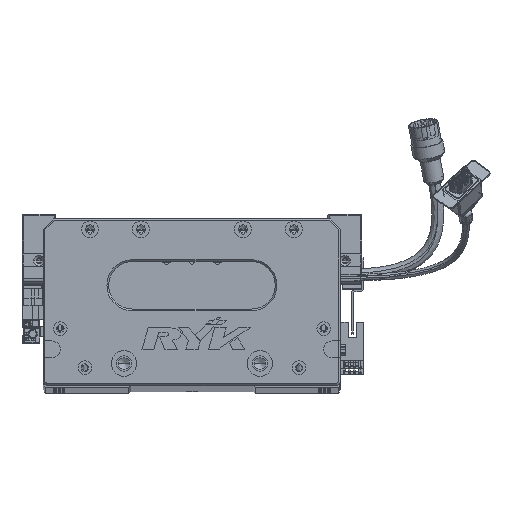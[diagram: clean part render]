
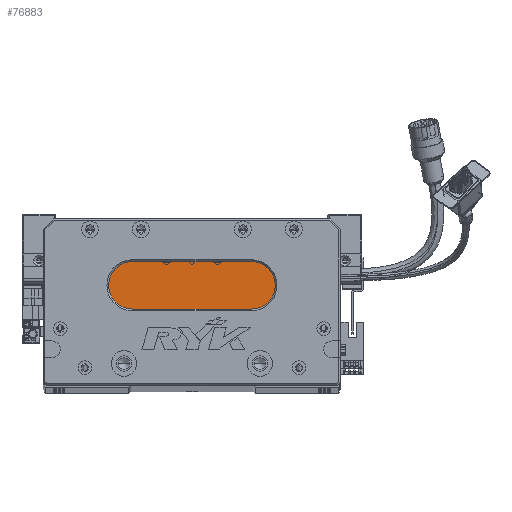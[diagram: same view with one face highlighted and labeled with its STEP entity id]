
A CAD part, top view. The second image highlights one B-rep face of the part: STEP entity #76883.
In plain terms, the highlighted planar face has unit normal (0, 0, 1) as drawn and (0, 0, -1) by its records, which use the part's own axes.
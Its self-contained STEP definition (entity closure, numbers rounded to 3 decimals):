
#4093 = ORIENTED_EDGE ( 'NONE', *, *, #90496, .T. ) ;
#6988 = LINE ( 'NONE', #8655, #30124 ) ;
#8655 = CARTESIAN_POINT ( 'NONE',  ( 122.5, 73., 18. ) ) ;
#10481 = AXIS2_PLACEMENT_3D ( 'NONE', #100336, #39006, #108698 ) ;
#14675 = AXIS2_PLACEMENT_3D ( 'NONE', #103855, #112595, #25788 ) ;
#25010 = ORIENTED_EDGE ( 'NONE', *, *, #109090, .T. ) ;
#25788 = DIRECTION ( 'NONE',  ( -1., 0., 0. ) ) ;
#27905 = CARTESIAN_POINT ( 'NONE',  ( 52.5, 59., 18. ) ) ;
#29212 = DIRECTION ( 'NONE',  ( 0., 0., -1. ) ) ;
#30124 = VECTOR ( 'NONE', #61609, 1000. ) ;
#32777 = EDGE_LOOP ( 'NONE', ( #43640, #25010, #4093, #109620, #72887 ) ) ;
#39006 = DIRECTION ( 'NONE',  ( 0., 0., -1. ) ) ;
#39663 = VERTEX_POINT ( 'NONE', #50239 ) ;
#41142 = FACE_OUTER_BOUND ( 'NONE', #32777, .T. ) ;
#41438 = EDGE_CURVE ( 'NONE', #39663, #55886, #49464, .T. ) ;
#43610 = EDGE_CURVE ( 'NONE', #101684, #39663, #6988, .T. ) ;
#43640 = ORIENTED_EDGE ( 'NONE', *, *, #41438, .T. ) ;
#46257 = VERTEX_POINT ( 'NONE', #109176 ) ;
#49464 = CIRCLE ( 'NONE', #53865, 14. ) ;
#50239 = CARTESIAN_POINT ( 'NONE',  ( 122.5, 73., 18. ) ) ;
#53865 = AXIS2_PLACEMENT_3D ( 'NONE', #107650, #29212, #55873 ) ;
#55557 = AXIS2_PLACEMENT_3D ( 'NONE', #27905, #70934, #62249 ) ;
#55873 = DIRECTION ( 'NONE',  ( -1., 0., 0. ) ) ;
#55886 = VERTEX_POINT ( 'NONE', #68577 ) ;
#61576 = PLANE ( 'NONE',  #14675 ) ;
#61609 = DIRECTION ( 'NONE',  ( 1., 0., 0. ) ) ;
#62249 = DIRECTION ( 'NONE',  ( -1., 0., 0. ) ) ;
#62625 = VERTEX_POINT ( 'NONE', #65067 ) ;
#65067 = CARTESIAN_POINT ( 'NONE',  ( 38.5, 59., 18. ) ) ;
#66363 = DIRECTION ( 'NONE',  ( -1., 0., 0. ) ) ;
#68577 = CARTESIAN_POINT ( 'NONE',  ( 122.5, 45., 18. ) ) ;
#70934 = DIRECTION ( 'NONE',  ( 0., 0., -1. ) ) ;
#72887 = ORIENTED_EDGE ( 'NONE', *, *, #43610, .T. ) ;
#76883 = ADVANCED_FACE ( 'NONE', ( #41142 ), #61576, .T. ) ;
#85730 = LINE ( 'NONE', #92294, #96728 ) ;
#90496 = EDGE_CURVE ( 'NONE', #46257, #62625, #111976, .T. ) ;
#92294 = CARTESIAN_POINT ( 'NONE',  ( 122.5, 45., 18. ) ) ;
#96728 = VECTOR ( 'NONE', #66363, 1000. ) ;
#96777 = EDGE_CURVE ( 'NONE', #62625, #101684, #109040, .T. ) ;
#100336 = CARTESIAN_POINT ( 'NONE',  ( 52.5, 59., 18. ) ) ;
#101684 = VERTEX_POINT ( 'NONE', #103271 ) ;
#103271 = CARTESIAN_POINT ( 'NONE',  ( 52.5, 73., 18. ) ) ;
#103855 = CARTESIAN_POINT ( 'NONE',  ( 122.5, 59., 18. ) ) ;
#107650 = CARTESIAN_POINT ( 'NONE',  ( 122.5, 59., 18. ) ) ;
#108698 = DIRECTION ( 'NONE',  ( -1., 0., 0. ) ) ;
#109040 = CIRCLE ( 'NONE', #55557, 14. ) ;
#109090 = EDGE_CURVE ( 'NONE', #55886, #46257, #85730, .T. ) ;
#109176 = CARTESIAN_POINT ( 'NONE',  ( 52.5, 45., 18. ) ) ;
#109620 = ORIENTED_EDGE ( 'NONE', *, *, #96777, .T. ) ;
#111976 = CIRCLE ( 'NONE', #10481, 14. ) ;
#112595 = DIRECTION ( 'NONE',  ( 0., 0., -1. ) ) ;
